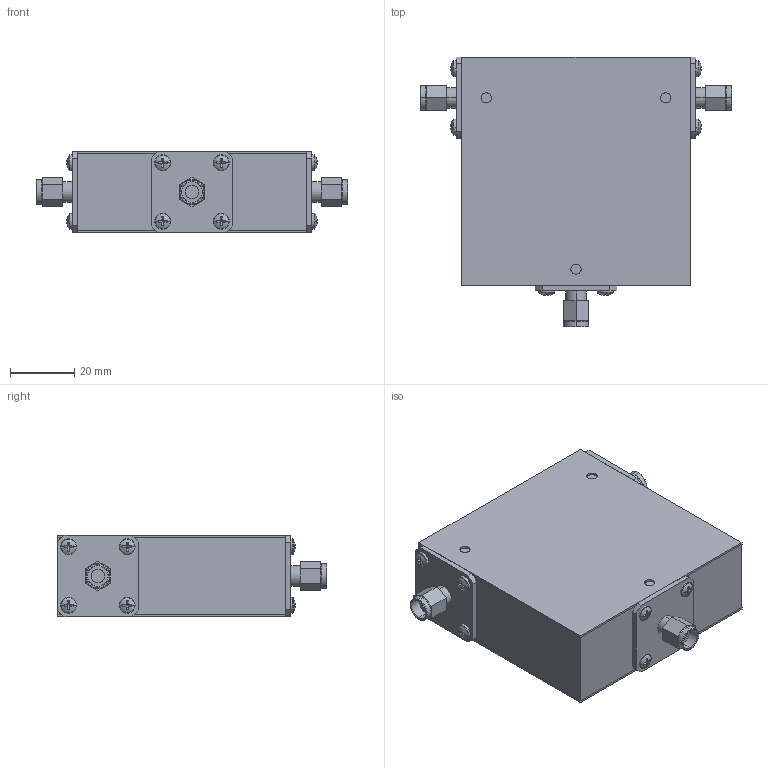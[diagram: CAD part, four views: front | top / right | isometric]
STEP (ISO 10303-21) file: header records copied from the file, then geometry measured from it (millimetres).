
FILE_DESCRIPTION (( 'STEP AP214' ), '1' );
FILE_NAME ('Package 20 Circ MMM.step', '2021-12-01T20:59:44', ( '' ), ( '' ), 'SwSTEP 2.0', 'SolidWorks 2016', '' );
FILE_SCHEMA (( 'AUTOMOTIVE_DESIGN' ));
Length unit declared in the file: inch
Products named in the file (5): Package 20 Circ MMM; Package 20; pan cross head_ai_CR-PHMS 0.099-56x0.125x0.125-N; Package Size 20; Delta SMA-Male 1 inch
Assembly tree (17 placements, depth 2):
  Package 20 Circ MMM
    Package Size 20
    Package 20
    pan cross head_ai_CR-PHMS 0.099-56x0.125x0.125-N  x12
    Delta SMA-Male 1 inch  x3
Bounding box: 96.88 x 84 x 25.4 mm (x, y, z)
Volume: 132849.2 mm3; surface area: 47603.7 mm2
Topology: 17 solids, 17 shells, 445 faces, 1014 edges, 624 vertices
Faces by surface type: plane 259, cylinder 120, torus 42, sphere 24
Entity records: 3248 total; most frequent: DIRECTION 584, CARTESIAN_POINT 504, ORIENTED_EDGE 472, EDGE_CURVE 236, AXIS2_PLACEMENT_3D 230, VERTEX_POINT 150, VECTOR 124, EDGE_LOOP 124
